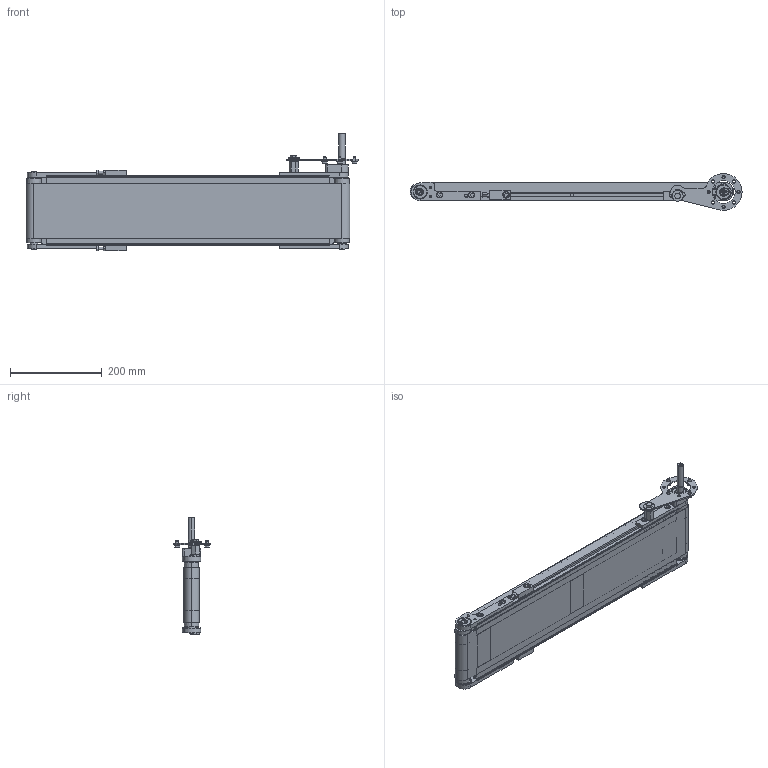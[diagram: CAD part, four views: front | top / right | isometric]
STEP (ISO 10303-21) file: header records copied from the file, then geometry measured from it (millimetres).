
FILE_DESCRIPTION (( 'STEP AP203' ), '1' );
FILE_NAME ('NASTRO_RETTILINEO_TAPPETO.step', '2026-04-29T14:42:55', ( 'Utente Windows' ), ( '' ), 'SwSTEP 2.0', 'SolidWorks 2024', '' );
FILE_SCHEMA (( 'CONFIG_CONTROL_DESIGN' ));
Length unit declared in the file: millimetre
Products named in the file (30): RONDELLE FASCIA LARGA UNI 6593_8.4x24 UNI 6593; 084.801.027 sx; BLOCCO_TRAINO_30_STANDARD_30_DX_MOTORE A SINISTRA; BLOCCO_RINVIO_30_STANDARD_DX; NASTRO_RETTILINEO_TAPPETO; 084.801.027 dx; RONDELLE UNI 6592_6.4x12.5 UNI 6592; 084.301.000 VITI ALUSIC_084.301.011; 084.303.001; 084.801.025; TELAIO_30_STANDARD_Default<A macchina>; BLOCCO_RINVIO_30_STANDARD_SX; 084.302.000 DADI ALUSIC 13x13-1_084.302.004; VITI TE UNI 5739_M6x10 UNI 5739; 62012RSBOMB_62012RSBOMB; 084.802.062; RULLO_30_TRAINO_30_DX; VITI TE UNI 5739_M8x16 UNI 5739; RULLO_30_RINVIO; LAMIERA_STANDARD; GRANI A PUNTA PIATTA UNI 5923_M8x20 UNI 5923; VITE_RONDELLA_M8X20; 084.301.000 VITI ALUSIC_084.301.002; TAPPETO_STANDARD; CUSCINETTI CB_CB 202; BLOCCO_TRAINO_30_STANDARD_SX_MOTORE A SINISTRA; 084.802.027; 084.301.000 VITI ALUSIC_084.301.003; 084.807.005; 084.802.008
Assembly tree (61 placements, depth 3):
  NASTRO_RETTILINEO_TAPPETO
    TAPPETO_STANDARD
    TELAIO_30_STANDARD_Default<A macchina>
    LAMIERA_STANDARD
    RULLO_30_TRAINO_30_DX
    BLOCCO_TRAINO_30_STANDARD_30_DX_MOTORE A SINISTRA
      084.802.027
      084.807.005
      084.801.027 dx
      084.801.025
      CUSCINETTI CB_CB 202
      084.301.000 VITI ALUSIC_084.301.002  x2
      084.302.000 DADI ALUSIC 13x13-1_084.302.004  x2
      084.301.000 VITI ALUSIC_084.301.011  x2
      VITI TE UNI 5739_M8x16 UNI 5739
      RONDELLE FASCIA LARGA UNI 6593_8.4x24 UNI 6593
      GRANI A PUNTA PIATTA UNI 5923_M8x20 UNI 5923
      RONDELLE UNI 6592_6.4x12.5 UNI 6592  x4
      VITI TE UNI 5739_M6x10 UNI 5739  x4
      084.802.062
    BLOCCO_TRAINO_30_STANDARD_SX_MOTORE A SINISTRA
      084.801.027 sx
      62012RSBOMB_62012RSBOMB
      084.302.000 DADI ALUSIC 13x13-1_084.302.004  x2
      084.301.000 VITI ALUSIC_084.301.002  x2
    RULLO_30_RINVIO
    BLOCCO_RINVIO_30_STANDARD_SX
      084.802.008
      084.801.027 sx
      62012RSBOMB_62012RSBOMB
      084.302.000 DADI ALUSIC 13x13-1_084.302.004  x3
      084.301.000 VITI ALUSIC_084.301.002  x2
      084.301.000 VITI ALUSIC_084.301.003
    BLOCCO_RINVIO_30_STANDARD_DX
      084.802.008
      084.801.027 dx
      62012RSBOMB_62012RSBOMB
      084.302.000 DADI ALUSIC 13x13-1_084.302.004  x3
      084.301.000 VITI ALUSIC_084.301.002  x2
      084.301.000 VITI ALUSIC_084.301.003
    VITE_RONDELLA_M8X20  x3
      084.303.001
      084.301.000 VITI ALUSIC_084.301.003
Bounding box: 722 x 80 x 256 mm (x, y, z)
Volume: 1530046.3 mm3; surface area: 1131467.4 mm2
Topology: 66 solids, 66 shells, 1545 faces, 3912 edges, 2545 vertices
Faces by surface type: plane 733, cylinder 504, cone 146, torus 98, bspline 44, sphere 20
Entity records: 30016 total; most frequent: CARTESIAN_POINT 5300, DIRECTION 4512, ORIENTED_EDGE 4160, EDGE_CURVE 2080, AXIS2_PLACEMENT_3D 1662, VERTEX_POINT 1360, VECTOR 1188, LINE 1188
